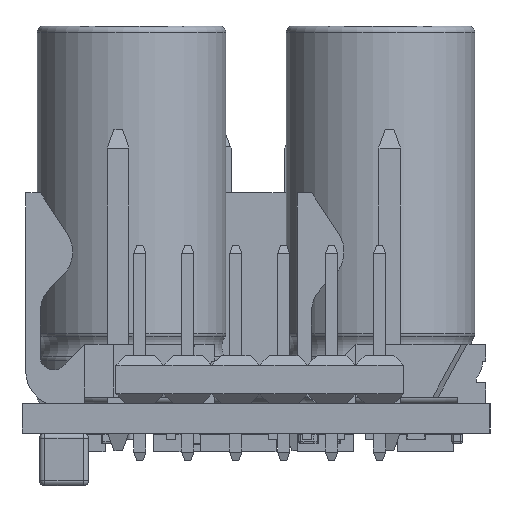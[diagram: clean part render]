
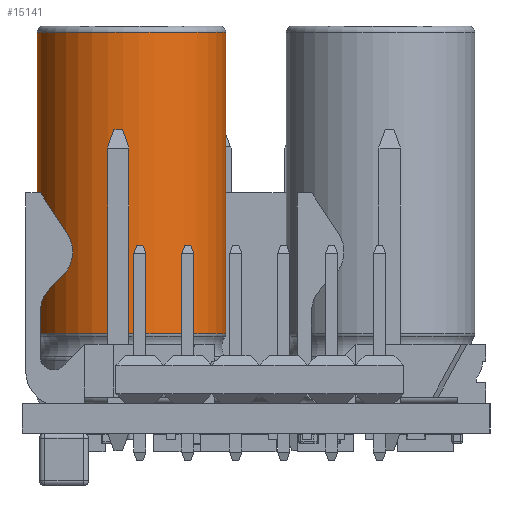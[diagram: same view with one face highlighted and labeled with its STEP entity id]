
A CAD part, left-side view. The second image highlights one B-rep face of the part: STEP entity #15141.
In plain terms, the highlighted cylindrical face has radius 5 mm (diameter 10 mm), a partial arc.
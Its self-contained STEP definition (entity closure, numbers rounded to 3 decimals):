
#1769=FACE_OUTER_BOUND('',#2858,.T.);
#2858=EDGE_LOOP('',(#12211,#12212,#12213,#12214));
#3979=LINE('',#23871,#5301);
#3990=LINE('',#23941,#5312);
#5301=VECTOR('',#19804,1.);
#5312=VECTOR('',#19875,1.);
#6306=CIRCLE('',#16665,5.);
#6307=CIRCLE('',#16667,5.);
#7179=VERTEX_POINT('',#23867);
#7181=VERTEX_POINT('',#23870);
#7202=VERTEX_POINT('',#23921);
#7210=VERTEX_POINT('',#23939);
#8915=EDGE_CURVE('',#7181,#7179,#3979,.T.);
#8951=EDGE_CURVE('',#7202,#7210,#3990,.T.);
#8955=EDGE_CURVE('',#7202,#7179,#6306,.T.);
#8956=EDGE_CURVE('',#7181,#7210,#6307,.T.);
#12211=ORIENTED_EDGE('',*,*,#8915,.T.);
#12212=ORIENTED_EDGE('',*,*,#8955,.F.);
#12213=ORIENTED_EDGE('',*,*,#8951,.T.);
#12214=ORIENTED_EDGE('',*,*,#8956,.F.);
#14003=CYLINDRICAL_SURFACE('',#16666,5.);
#15141=ADVANCED_FACE('',(#1769),#14003,.T.);
#16665=AXIS2_PLACEMENT_3D('',#23950,#19892,#19893);
#16666=AXIS2_PLACEMENT_3D('',#23951,#19894,#19895);
#16667=AXIS2_PLACEMENT_3D('',#23952,#19896,#19897);
#19804=DIRECTION('',(0.,0.,1.));
#19875=DIRECTION('',(0.,0.,-1.));
#19892=DIRECTION('center_axis',(0.,0.,1.));
#19893=DIRECTION('ref_axis',(-1.,0.,0.));
#19894=DIRECTION('center_axis',(0.,0.,1.));
#19895=DIRECTION('ref_axis',(-1.,0.,0.));
#19896=DIRECTION('center_axis',(0.,0.,-1.));
#19897=DIRECTION('ref_axis',(1.,0.,0.));
#23867=CARTESIAN_POINT('',(4.938,-0.782,19.667));
#23870=CARTESIAN_POINT('',(4.938,-0.782,3.702));
#23871=CARTESIAN_POINT('',(4.938,-0.782,10.));
#23921=CARTESIAN_POINT('',(4.938,0.782,19.667));
#23939=CARTESIAN_POINT('',(4.938,0.782,3.702));
#23941=CARTESIAN_POINT('',(4.938,0.782,10.));
#23950=CARTESIAN_POINT('Origin',(0.,0.,19.667));
#23951=CARTESIAN_POINT('Origin',(0.,0.,10.));
#23952=CARTESIAN_POINT('Origin',(0.,0.,3.702));
